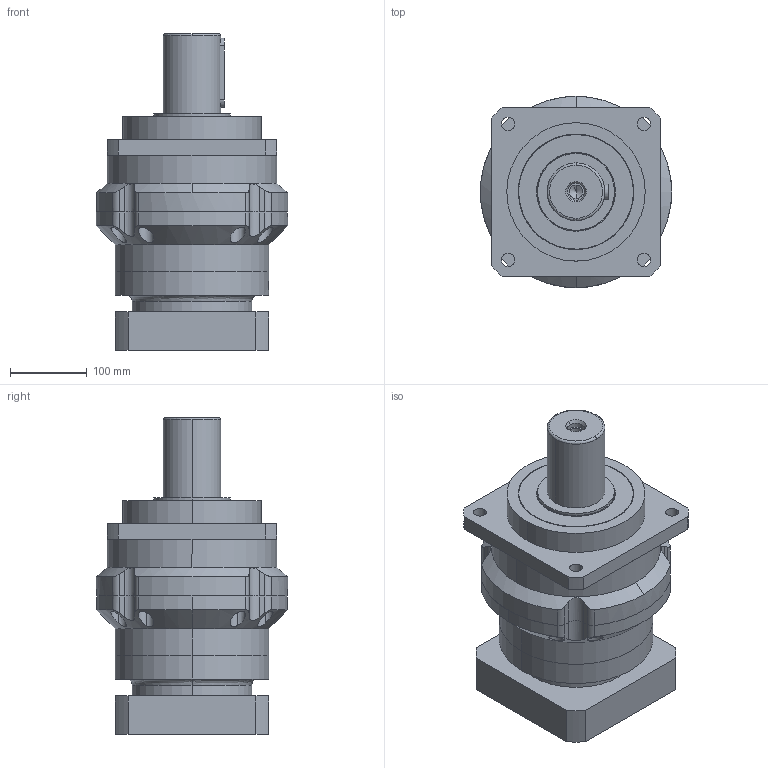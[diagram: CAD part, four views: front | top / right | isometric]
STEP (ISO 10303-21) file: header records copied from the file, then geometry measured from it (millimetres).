
FILE_DESCRIPTION (( 'STEP AP203' ), '1' );
FILE_NAME ('PLM220-L2-38-180-215.STEP', '2026-10-08T02:50:00', ( 'Windows User' ), ( 'P R C' ), 'SwSTEP 2.0', 'SolidWorks 2016', '' );
FILE_SCHEMA (( 'CONFIG_CONTROL_DESIGN' ));
Length unit declared in the file: millimetre
Products named in the file (8): TC100-150-10_TC-34.9-55-7; hexagon socket head cap screw_jis_JIS B 1176 M12 x 35 (35) --N; PLM220-L2-38-180-215; PLM220转架齿圈; PLM220二级齿圈; PLM220媼撰狟裔薊粣ん-38; PLM220-LJ2-180-M12-215-LR92.5_D4-114.3 D7-200 D8-M12 A2-180 L5-10 L6-83(45+38) R-117 梓袧; 邧埴瑩 20x12x90
Assembly tree (7 placements, depth 2):
  PLM220-L2-38-180-215
    PLM220转架齿圈
    PLM220二级齿圈
    PLM220媼撰狟裔薊粣ん-38
    PLM220-LJ2-180-M12-215-LR92.5_D4-114.3 D7-200 D8-M12 A2-180 L5-10 L6-83(45+38) R-117 梓袧
    邧埴瑩 20x12x90
    TC100-150-10_TC-34.9-55-7
    hexagon socket head cap screw_jis_JIS B 1176 M12 x 35 (35) --N
Bounding box: 249 x 249 x 412 mm (x, y, z)
Volume: 10769911.1 mm3; surface area: 691122.4 mm2
Topology: 7 solids, 7 shells, 931 faces, 2427 edges, 1595 vertices
Faces by surface type: plane 509, cylinder 205, bspline 181, cone 36
Entity records: 42089 total; most frequent: CARTESIAN_POINT 19266, ORIENTED_EDGE 4818, DIRECTION 3983, EDGE_CURVE 2409, VERTEX_POINT 1595, LINE 1551, VECTOR 1551, AXIS2_PLACEMENT_3D 1216
